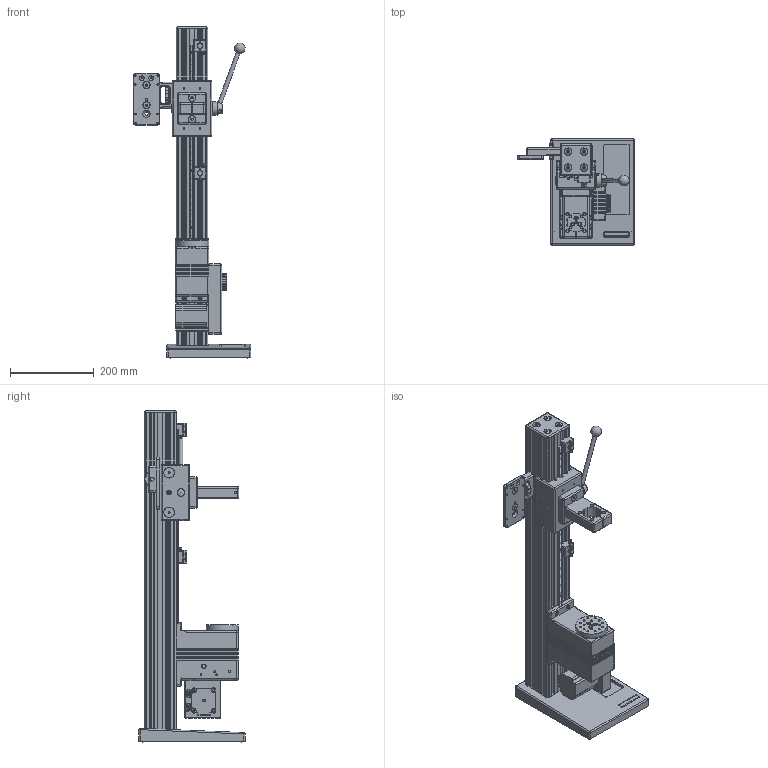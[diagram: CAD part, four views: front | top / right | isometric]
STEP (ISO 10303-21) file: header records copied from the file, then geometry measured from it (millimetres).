
FILE_DESCRIPTION(/* description */ (''),/* implementation_level */ '2;1');
FILE_NAME(/* name */ 'F:\CAD files\Itr\3D MARKETING MODELS\MOTORIZED TEST STANDS\TSTM\TSTM MARKETING MODEL.stp',/* time_stamp */ '2023-02-07T09:49:11-05:00',/* author */ ('dsollitt'),/* organization */ (''),/* preprocessor_version */ 'ST-DEVELOPER v18.1',/* originating_system */ 'AutoCAD Mechanical',/* authorisation */ '');
FILE_SCHEMA (('AUTOMOTIVE_DESIGN { 1 0 10303 214 3 1 1 }'));
Products named in the file (1): Product
Bounding box: 280.8 x 254 x 794.72 mm (x, y, z)
Volume: 6006031.2 mm3; surface area: 1165406.9 mm2
Topology: 14 solids, 17 shells, 3547 faces, 9660 edges, 6263 vertices
Faces by surface type: plane 2118, cylinder 733, cone 407, bspline 187, sphere 55, torus 47
Full cylindrical faces by diameter (mm): 1 x27, 2.388 x1, 2.921 x5, 3.175 x5, 3.251 x8, 3.556 x20, 4.039 x8, 4.064 x4, 4.166 x4, 4.762 x6, 4.768 x1, 4.826 x28, 5.08 x4, 5.105 x1, 5.131 x2, 5.309 x2, 5.41 x7, 5.74 x4, 6.223 x4, 6.35 x10, 6.528 x4, 7.137 x1, 7.455 x3, 7.925 x4, 8.331 x4, 8.382 x5, 8.636 x4, 8.738 x4, 9.525 x6, 9.652 x1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
Entity records: 121072 total; most frequent: CARTESIAN_POINT 32318, ORIENTED_EDGE 19204, DIRECTION 17833, EDGE_CURVE 9602, VERTEX_POINT 6261, AXIS2_PLACEMENT_3D 5987, LINE 5859, VECTOR 5859
